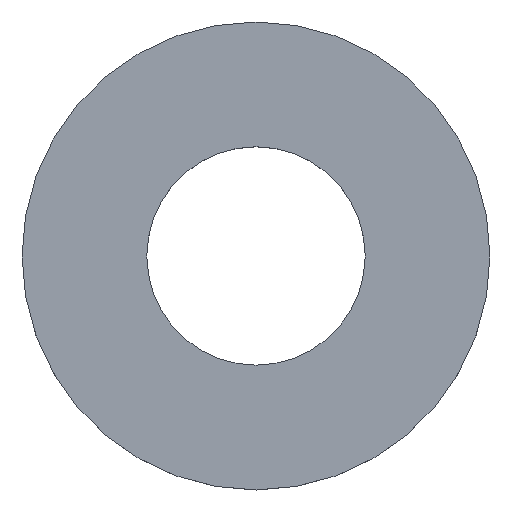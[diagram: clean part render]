
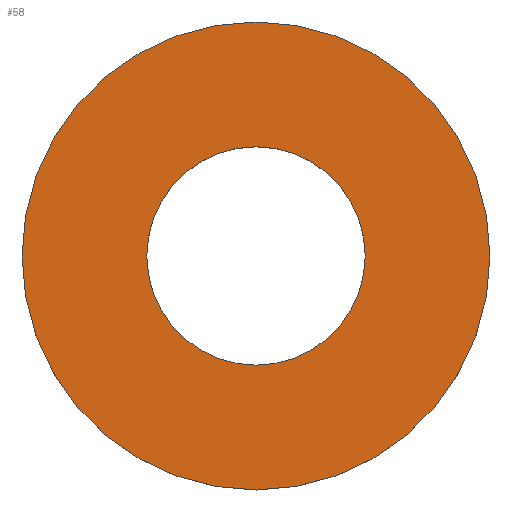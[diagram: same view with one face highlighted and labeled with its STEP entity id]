
A CAD part, top view. The second image highlights one B-rep face of the part: STEP entity #58.
In plain terms, the highlighted planar face has unit normal (0, 0, 1).
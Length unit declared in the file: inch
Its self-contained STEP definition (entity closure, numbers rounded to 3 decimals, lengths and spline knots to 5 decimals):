
#16=PLANE('',#68);
#20=FACE_BOUND('',#32,.T.);
#24=FACE_OUTER_BOUND('',#31,.T.);
#31=EDGE_LOOP('',(#51));
#32=EDGE_LOOP('',(#52));
#33=CIRCLE('',#62,0.875);
#35=CIRCLE('',#65,1.875);
#37=VERTEX_POINT('',#89);
#39=VERTEX_POINT('',#94);
#41=EDGE_CURVE('',#37,#37,#33,.T.);
#43=EDGE_CURVE('',#39,#39,#35,.T.);
#51=ORIENTED_EDGE('',*,*,#43,.T.);
#52=ORIENTED_EDGE('',*,*,#41,.T.);
#58=ADVANCED_FACE('',(#24,#20),#16,.T.);
#62=AXIS2_PLACEMENT_3D('',#90,#73,#74);
#65=AXIS2_PLACEMENT_3D('',#95,#79,#80);
#68=AXIS2_PLACEMENT_3D('',#99,#85,#86);
#73=DIRECTION('center_axis',(0.,0.,-1.));
#74=DIRECTION('ref_axis',(-1.,0.,0.));
#79=DIRECTION('center_axis',(0.,0.,1.));
#80=DIRECTION('ref_axis',(-1.,0.,0.));
#85=DIRECTION('center_axis',(0.,0.,1.));
#86=DIRECTION('ref_axis',(1.,0.,0.));
#89=CARTESIAN_POINT('',(0.875,0.,0.25));
#90=CARTESIAN_POINT('Origin',(0.,0.,0.25));
#94=CARTESIAN_POINT('',(1.875,0.,0.25));
#95=CARTESIAN_POINT('Origin',(0.,0.,0.25));
#99=CARTESIAN_POINT('Origin',(0.,0.,
0.25));
